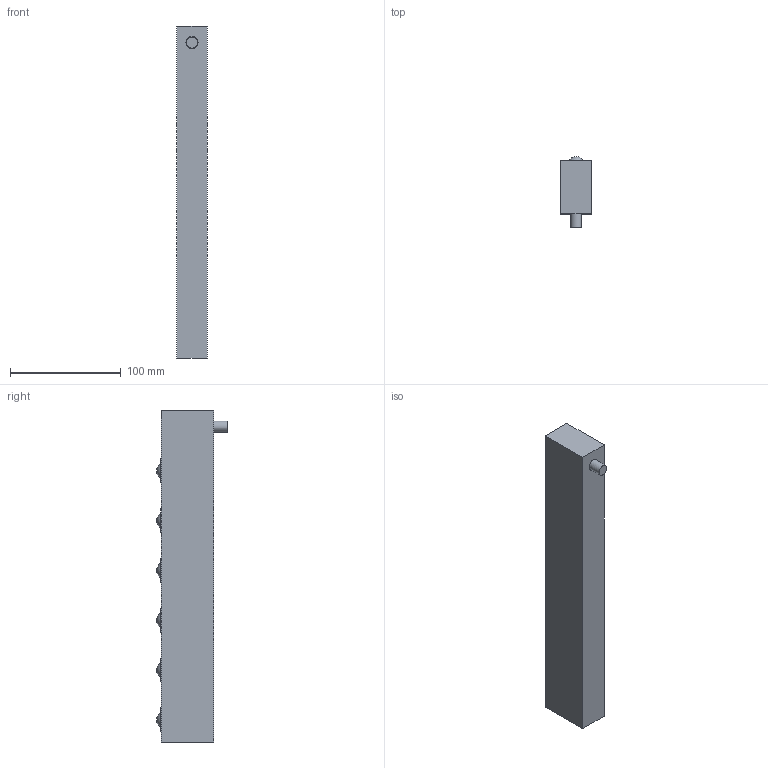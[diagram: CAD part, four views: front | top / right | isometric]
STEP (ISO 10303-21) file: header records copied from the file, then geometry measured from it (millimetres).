
FILE_DESCRIPTION(/* description */ (''),/* implementation_level */ '2;1');
FILE_NAME(/* name */ 'V:\Shrinkwrap\EMB\EMB - SHRINKWRAP\EMP28\EMB28-6_Shrinkwrap_1.stp',/* time_stamp */ '2022-08-12T11:18:55+02:00',/* author */ ('cw'),/* organization */ (''),/* preprocessor_version */ 'ST-DEVELOPER v17',/* originating_system */ 'Autodesk Inventor 2019',/* authorisation */ '');
FILE_SCHEMA (('AUTOMOTIVE_DESIGN { 1 0 10303 214 3 1 1 }','PROCESS_PLANNING_SCHEMA'));
Length unit declared in the file: millimetre
Products named in the file (1): EMB28-6_Shrinkwrap_1
Bounding box: 27.8 x 64.05 x 300 mm (x, y, z)
Volume: 395769.6 mm3; surface area: 52116.7 mm2
Topology: 1 solids, 1 shells, 32 faces, 62 edges, 50 vertices
Faces by surface type: plane 16, cylinder 10, sphere 6
Full cylindrical faces by diameter (mm): 10 x1, 11 x1, 16 x1, 18 x1, 21.5 x6
Entity records: 963 total; most frequent: DIRECTION 164, CARTESIAN_POINT 143, ORIENTED_EDGE 120, AXIS2_PLACEMENT_3D 71, EDGE_CURVE 60, EDGE_LOOP 48, VERTEX_POINT 46, CIRCLE 38
